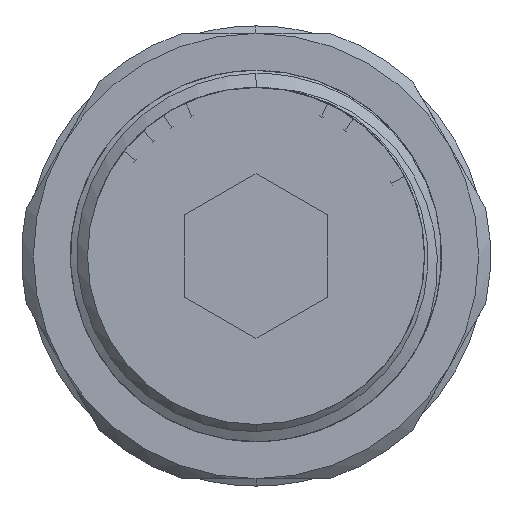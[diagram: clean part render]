
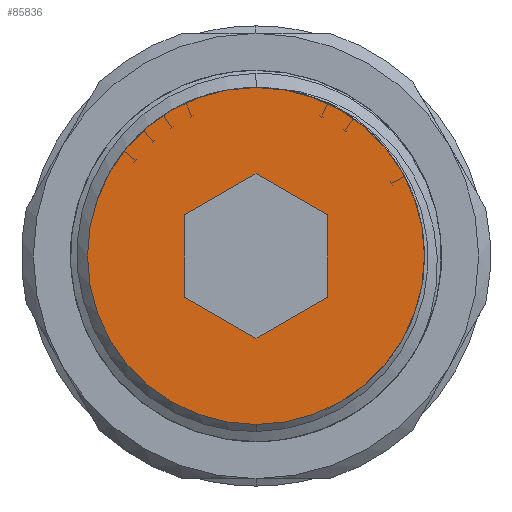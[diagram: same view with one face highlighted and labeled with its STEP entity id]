
A CAD part, front view. The second image highlights one B-rep face of the part: STEP entity #85836.
In plain terms, the highlighted planar face has unit normal (0, -1, 0).
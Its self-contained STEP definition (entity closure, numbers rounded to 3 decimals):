
#26543 = LINE ( 'NONE', #258215, #138617 ) ;
#36783 = DIRECTION ( 'NONE',  ( 0., 0., 1. ) ) ;
#37462 = VERTEX_POINT ( 'NONE', #385020 ) ;
#47262 = CARTESIAN_POINT ( 'NONE',  ( -4.8, 0., -2.771 ) ) ;
#48235 = LINE ( 'NONE', #469593, #483769 ) ;
#53007 = EDGE_CURVE ( 'NONE', #456575, #58966, #333270, .T. ) ;
#58174 = VECTOR ( 'NONE', #205238, 1000. ) ;
#58966 = VERTEX_POINT ( 'NONE', #498907 ) ;
#74144 = CARTESIAN_POINT ( 'NONE',  ( 0., 0., -11.35 ) ) ;
#81008 = VECTOR ( 'NONE', #384670, 1000. ) ;
#85836 = ADVANCED_FACE ( 'NONE', ( #228977, #116798 ), #198302, .F. ) ;
#97221 = EDGE_CURVE ( 'NONE', #207340, #138608, #353249, .T. ) ;
#110826 = ORIENTED_EDGE ( 'NONE', *, *, #377723, .F. ) ;
#116798 = FACE_OUTER_BOUND ( 'NONE', #239291, .T. ) ;
#138608 = VERTEX_POINT ( 'NONE', #427315 ) ;
#138617 = VECTOR ( 'NONE', #300572, 1000. ) ;
#150549 = EDGE_LOOP ( 'NONE', ( #174822, #537541, #382640, #495046, #110826, #418062 ) ) ;
#159335 = CARTESIAN_POINT ( 'NONE',  ( 0., 0., 0. ) ) ;
#166802 = EDGE_CURVE ( 'NONE', #448375, #528411, #26543, .T. ) ;
#174060 = CARTESIAN_POINT ( 'NONE',  ( -4.8, 0., 2.771 ) ) ;
#174822 = ORIENTED_EDGE ( 'NONE', *, *, #166802, .F. ) ;
#190483 = CARTESIAN_POINT ( 'NONE',  ( 0., 0., -5.543 ) ) ;
#192322 = DIRECTION ( 'NONE',  ( 0.866, 0., 0.5 ) ) ;
#198302 = PLANE ( 'NONE',  #262161 ) ;
#201736 = DIRECTION ( 'NONE',  ( 0., 0., 1. ) ) ;
#205238 = DIRECTION ( 'NONE',  ( 0., 0., 1. ) ) ;
#207340 = VERTEX_POINT ( 'NONE', #74144 ) ;
#215319 = EDGE_CURVE ( 'NONE', #279097, #448375, #48235, .T. ) ;
#224811 = VECTOR ( 'NONE', #426640, 1000. ) ;
#228977 = FACE_BOUND ( 'NONE', #150549, .T. ) ;
#233792 = CIRCLE ( 'NONE', #263910, 11.35 ) ;
#239291 = EDGE_LOOP ( 'NONE', ( #375414, #316986 ) ) ;
#250730 = CARTESIAN_POINT ( 'NONE',  ( 4.8, 0., 2.771 ) ) ;
#258215 = CARTESIAN_POINT ( 'NONE',  ( 0., 0., 5.543 ) ) ;
#259386 = DIRECTION ( 'NONE',  ( -0.866, 0., 0.5 ) ) ;
#262161 = AXIS2_PLACEMENT_3D ( 'NONE', #487898, #535758, #283057 ) ;
#263910 = AXIS2_PLACEMENT_3D ( 'NONE', #159335, #454345, #201736 ) ;
#273339 = EDGE_CURVE ( 'NONE', #138608, #207340, #233792, .T. ) ;
#276695 = AXIS2_PLACEMENT_3D ( 'NONE', #542068, #289369, #36783 ) ;
#279097 = VERTEX_POINT ( 'NONE', #250730 ) ;
#283057 = DIRECTION ( 'NONE',  ( 0., 0., 1. ) ) ;
#289369 = DIRECTION ( 'NONE',  ( 0., 1., 0. ) ) ;
#292054 = LINE ( 'NONE', #47262, #81008 ) ;
#294941 = CARTESIAN_POINT ( 'NONE',  ( 0., 0., 5.543 ) ) ;
#300572 = DIRECTION ( 'NONE',  ( -0.866, 0., -0.5 ) ) ;
#316986 = ORIENTED_EDGE ( 'NONE', *, *, #273339, .F. ) ;
#320037 = VECTOR ( 'NONE', #192322, 1000. ) ;
#333270 = LINE ( 'NONE', #190483, #320037 ) ;
#336914 = LINE ( 'NONE', #174060, #224811 ) ;
#353249 = CIRCLE ( 'NONE', #276695, 11.35 ) ;
#375414 = ORIENTED_EDGE ( 'NONE', *, *, #97221, .F. ) ;
#377723 = EDGE_CURVE ( 'NONE', #37462, #456575, #292054, .T. ) ;
#381446 = LINE ( 'NONE', #457842, #58174 ) ;
#382640 = ORIENTED_EDGE ( 'NONE', *, *, #404261, .F. ) ;
#384670 = DIRECTION ( 'NONE',  ( 0.866, 0., -0.5 ) ) ;
#385020 = CARTESIAN_POINT ( 'NONE',  ( -4.8, 0., -2.771 ) ) ;
#394211 = CARTESIAN_POINT ( 'NONE',  ( 0., 0., -5.543 ) ) ;
#404261 = EDGE_CURVE ( 'NONE', #58966, #279097, #381446, .T. ) ;
#418062 = ORIENTED_EDGE ( 'NONE', *, *, #545969, .F. ) ;
#426640 = DIRECTION ( 'NONE',  ( 0., 0., -1. ) ) ;
#427315 = CARTESIAN_POINT ( 'NONE',  ( 0., 0., 11.35 ) ) ;
#437838 = CARTESIAN_POINT ( 'NONE',  ( -4.8, 0., 2.771 ) ) ;
#448375 = VERTEX_POINT ( 'NONE', #294941 ) ;
#454345 = DIRECTION ( 'NONE',  ( 0., 1., 0. ) ) ;
#456575 = VERTEX_POINT ( 'NONE', #394211 ) ;
#457842 = CARTESIAN_POINT ( 'NONE',  ( 4.8, 0., -2.771 ) ) ;
#469593 = CARTESIAN_POINT ( 'NONE',  ( 4.8, 0., 2.771 ) ) ;
#483769 = VECTOR ( 'NONE', #259386, 1000. ) ;
#487898 = CARTESIAN_POINT ( 'NONE',  ( 0., 0., 0. ) ) ;
#495046 = ORIENTED_EDGE ( 'NONE', *, *, #53007, .F. ) ;
#498907 = CARTESIAN_POINT ( 'NONE',  ( 4.8, 0., -2.771 ) ) ;
#528411 = VERTEX_POINT ( 'NONE', #437838 ) ;
#535758 = DIRECTION ( 'NONE',  ( 0., 1., 0. ) ) ;
#537541 = ORIENTED_EDGE ( 'NONE', *, *, #215319, .F. ) ;
#542068 = CARTESIAN_POINT ( 'NONE',  ( 0., 0., 0. ) ) ;
#545969 = EDGE_CURVE ( 'NONE', #528411, #37462, #336914, .T. ) ;
